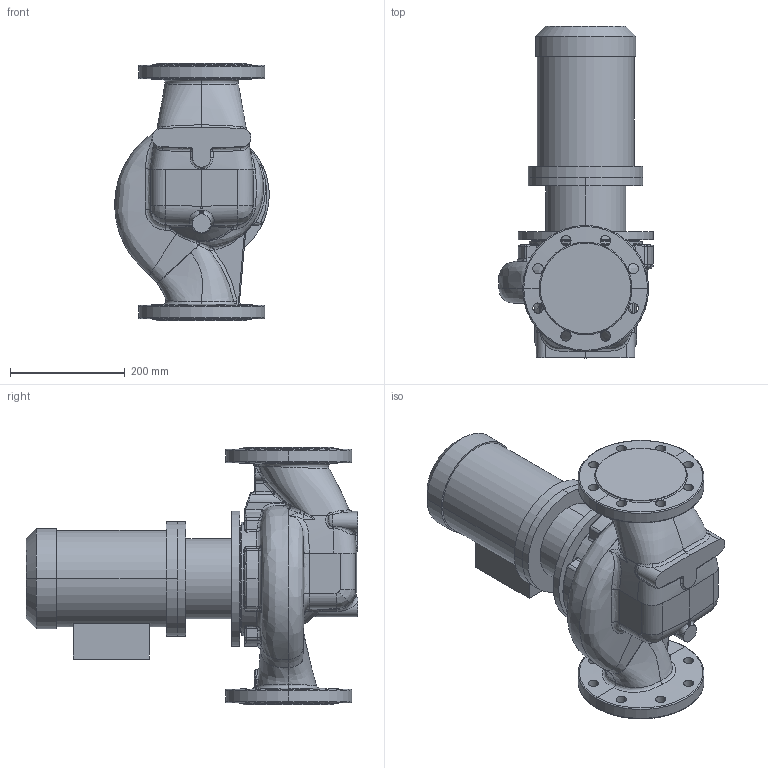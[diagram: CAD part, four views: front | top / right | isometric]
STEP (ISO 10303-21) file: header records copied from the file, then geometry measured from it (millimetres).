
FILE_DESCRIPTION (( 'STEP AP214' ), '1' );
FILE_NAME ('KRL 100-125-4-1,1.STEP', '2026-04-06T06:40:50', ( '' ), ( '' ), 'SwSTEP 2.0', 'SolidWorks 2016', '' );
FILE_SCHEMA (( 'AUTOMOTIVE_DESIGN' ));
Length unit declared in the file: millimetre
Products named in the file (1): KRL 100-125-4-1,1
Bounding box: 269.65 x 579.3 x 450 mm (x, y, z)
Volume: 21140341.8 mm3; surface area: 955844.2 mm2
Topology: 4 solids, 4 shells, 556 faces, 1380 edges, 833 vertices
Faces by surface type: bspline 269, cylinder 129, plane 86, torus 30, cone 29, sphere 13
Entity records: 54706 total; most frequent: CARTESIAN_POINT 37682, ORIENTED_EDGE 2730, DIRECTION 1608, EDGE_CURVE 1365, VERTEX_POINT 833, AXIS2_PLACEMENT_3D 681, B_SPLINE_CURVE_WITH_KNOTS 662, EDGE_LOOP 604
